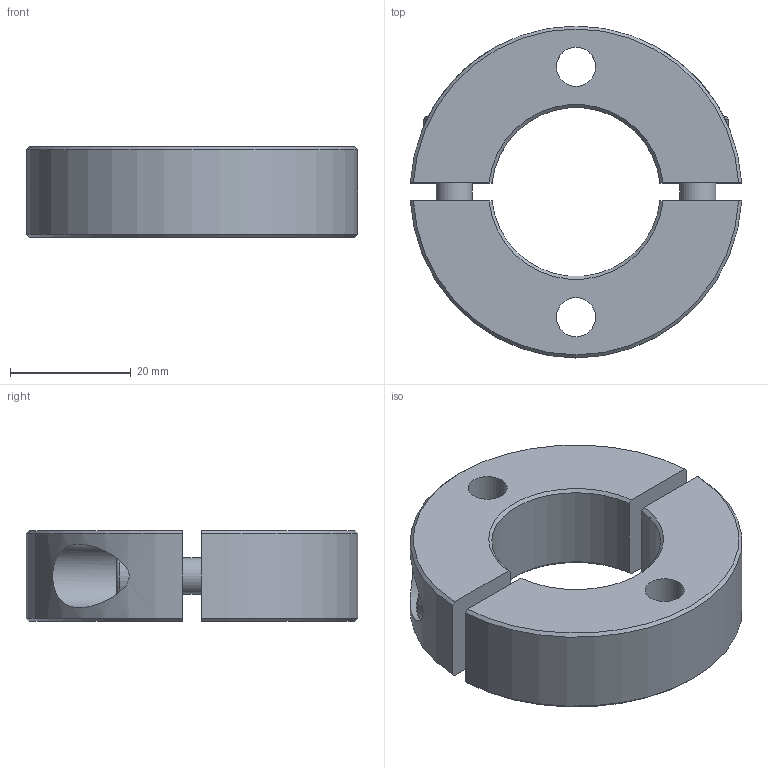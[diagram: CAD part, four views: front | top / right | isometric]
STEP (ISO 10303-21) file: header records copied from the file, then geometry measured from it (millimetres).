
FILE_DESCRIPTION( ( 'STEP AP203' ), '1' );
FILE_NAME( 'C:/Temp/Ganter_Step_05_03_2020/data/3_2/gn7072_2/Split Stainless Steel-Set collar GN 7072.2-55-B28-NI-A.stp', '2020-03-13T05:40:52', ( 'License CC BY-ND 4.0' ), ( 'CADENAS' ), ' ', 'PARTsolutions', ' ' );
FILE_SCHEMA( ( 'CONFIG_CONTROL_DESIGN' ) );
Length unit declared in the file: millimetre
Products named in the file (1): _Split Stainless Steel-Set collar GN 7072.2-55-B28-NI-A
Bounding box: 54.92 x 55 x 15 mm (x, y, z)
Volume: 22987.9 mm3; surface area: 9770.1 mm2
Topology: 1 solids, 1 shells, 52 faces, 124 edges, 84 vertices
Faces by surface type: plane 28, cylinder 14, cone 8, torus 2
Full cylindrical faces by diameter (mm): 6 x2, 6.4 x2, 6.5 x2, 10 x2, 10.5 x2
Entity records: 1632 total; most frequent: CARTESIAN_POINT 447, DIRECTION 230, ORIENTED_EDGE 212, EDGE_CURVE 106, AXIS2_PLACEMENT_3D 89, EDGE_LOOP 80, VERTEX_POINT 78, FACE_OUTER_BOUND 64
